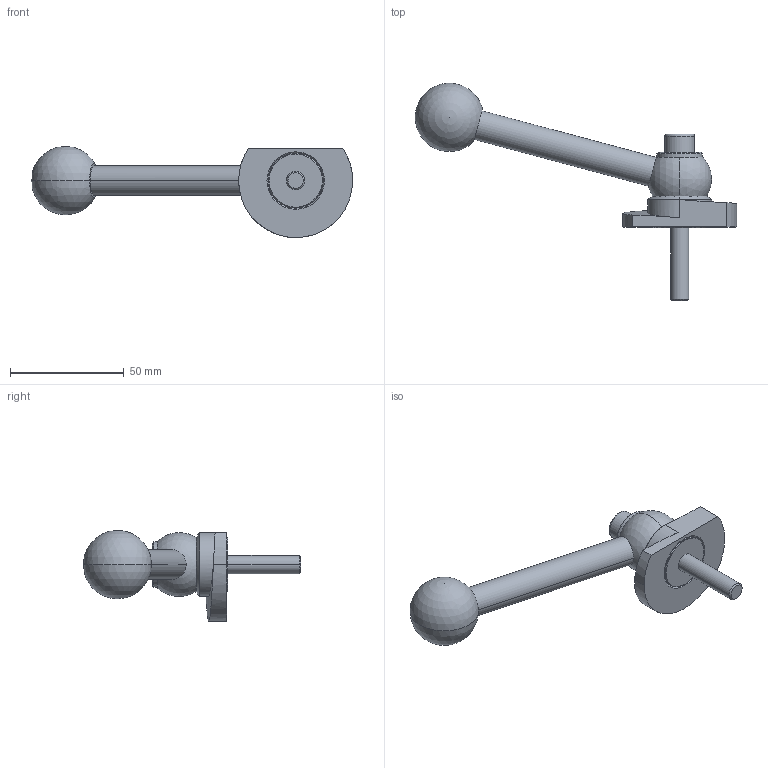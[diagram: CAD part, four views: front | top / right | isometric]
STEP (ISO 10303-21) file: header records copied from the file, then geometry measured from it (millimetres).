
FILE_DESCRIPTION (( 'STEP AP214' ), '1' );
FILE_NAME ('918.1-50-KVS-L-32.step', '2024-05-15T13:02:12', ( '' ), ( '' ), 'SwSTEP 2.0', 'SolidWorks 2022', '' );
FILE_SCHEMA (( 'AUTOMOTIVE_DESIGN' ));
Length unit declared in the file: millimetre
Products named in the file (1): 918.1-50-KVS-L-32
Bounding box: 140.94 x 95.31 x 40 mm (x, y, z)
Volume: 53066.3 mm3; surface area: 16294 mm2
Topology: 1 solids, 1 shells, 62 faces, 140 edges, 88 vertices
Faces by surface type: plane 20, cylinder 19, cone 14, sphere 4, bspline 3, torus 2
Entity records: 2001 total; most frequent: CARTESIAN_POINT 613, DIRECTION 305, ORIENTED_EDGE 260, EDGE_CURVE 130, AXIS2_PLACEMENT_3D 125, VERTEX_POINT 82, EDGE_LOOP 74, CIRCLE 65
